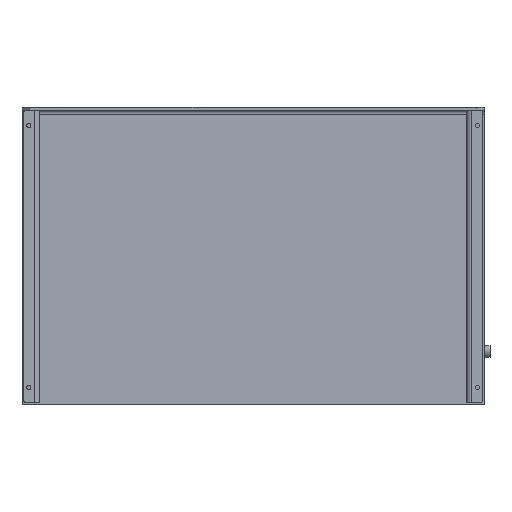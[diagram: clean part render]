
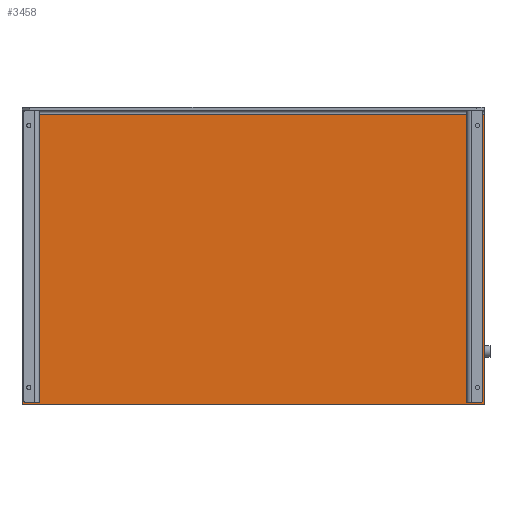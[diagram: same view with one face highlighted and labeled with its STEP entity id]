
A CAD part, front view. The second image highlights one B-rep face of the part: STEP entity #3458.
In plain terms, the highlighted planar face has unit normal (0, -1, 0).
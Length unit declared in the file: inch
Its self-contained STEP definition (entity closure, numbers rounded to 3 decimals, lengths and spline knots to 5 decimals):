
#611 = AXIS2_PLACEMENT_3D ( 'NONE', #10103, #10238, #10220 ) ;
#1110 = ORIENTED_EDGE ( 'NONE', *, *, #7305, .F. ) ;
#1592 = VECTOR ( 'NONE', #4588, 39.37008 ) ;
#1702 = CARTESIAN_POINT ( 'NONE',  ( -44.8273, 0.05856, -14.94503 ) ) ;
#1826 = CARTESIAN_POINT ( 'NONE',  ( -44.8273, 0.05856, 22.72097 ) ) ;
#2639 = VECTOR ( 'NONE', #6819, 39.37008 ) ;
#3458 = ADVANCED_FACE ( 'NONE', ( #5070 ), #10351, .T. ) ;
#4259 = CARTESIAN_POINT ( 'NONE',  ( -44.8273, 0.05856, 22.72097 ) ) ;
#4544 = LINE ( 'NONE', #5725, #1592 ) ;
#4588 = DIRECTION ( 'NONE',  ( 0., 0., -1. ) ) ;
#4669 = ORIENTED_EDGE ( 'NONE', *, *, #7257, .F. ) ;
#4837 = DIRECTION ( 'NONE',  ( 1., 0., 0. ) ) ;
#4965 = CARTESIAN_POINT ( 'NONE',  ( 15.1727, 0.05856, 22.72097 ) ) ;
#5070 = FACE_OUTER_BOUND ( 'NONE', #10145, .T. ) ;
#5148 = DIRECTION ( 'NONE',  ( 0., 0., 1. ) ) ;
#5236 = CARTESIAN_POINT ( 'NONE',  ( -44.8273, 0.05856, 23.61497 ) ) ;
#5725 = CARTESIAN_POINT ( 'NONE',  ( 15.1727, 0.05856, 23.61497 ) ) ;
#6819 = DIRECTION ( 'NONE',  ( -1., 0., 0. ) ) ;
#6991 = VERTEX_POINT ( 'NONE', #1702 ) ;
#7257 = EDGE_CURVE ( 'NONE', #13265, #6991, #13325, .T. ) ;
#7288 = EDGE_CURVE ( 'NONE', #6991, #11694, #7581, .T. ) ;
#7305 = EDGE_CURVE ( 'NONE', #9289, #13265, #4544, .T. ) ;
#7306 = EDGE_CURVE ( 'NONE', #11694, #9289, #10066, .T. ) ;
#7544 = CARTESIAN_POINT ( 'NONE',  ( -44.8273, 0.05856, -14.94503 ) ) ;
#7581 = LINE ( 'NONE', #5236, #12759 ) ;
#9289 = VERTEX_POINT ( 'NONE', #4965 ) ;
#10066 = LINE ( 'NONE', #4259, #13029 ) ;
#10103 = CARTESIAN_POINT ( 'NONE',  ( -44.8273, 0.05856, -14.94503 ) ) ;
#10145 = EDGE_LOOP ( 'NONE', ( #1110, #12213, #12360, #4669 ) ) ;
#10220 = DIRECTION ( 'NONE',  ( 0., 0., -1. ) ) ;
#10238 = DIRECTION ( 'NONE',  ( 0., -1., 0. ) ) ;
#10351 = PLANE ( 'NONE',  #611 ) ;
#11694 = VERTEX_POINT ( 'NONE', #1826 ) ;
#12213 = ORIENTED_EDGE ( 'NONE', *, *, #7306, .F. ) ;
#12354 = CARTESIAN_POINT ( 'NONE',  ( 15.1727, 0.05856, -14.94503 ) ) ;
#12360 = ORIENTED_EDGE ( 'NONE', *, *, #7288, .F. ) ;
#12759 = VECTOR ( 'NONE', #5148, 39.37008 ) ;
#13029 = VECTOR ( 'NONE', #4837, 39.37008 ) ;
#13265 = VERTEX_POINT ( 'NONE', #12354 ) ;
#13325 = LINE ( 'NONE', #7544, #2639 ) ;
